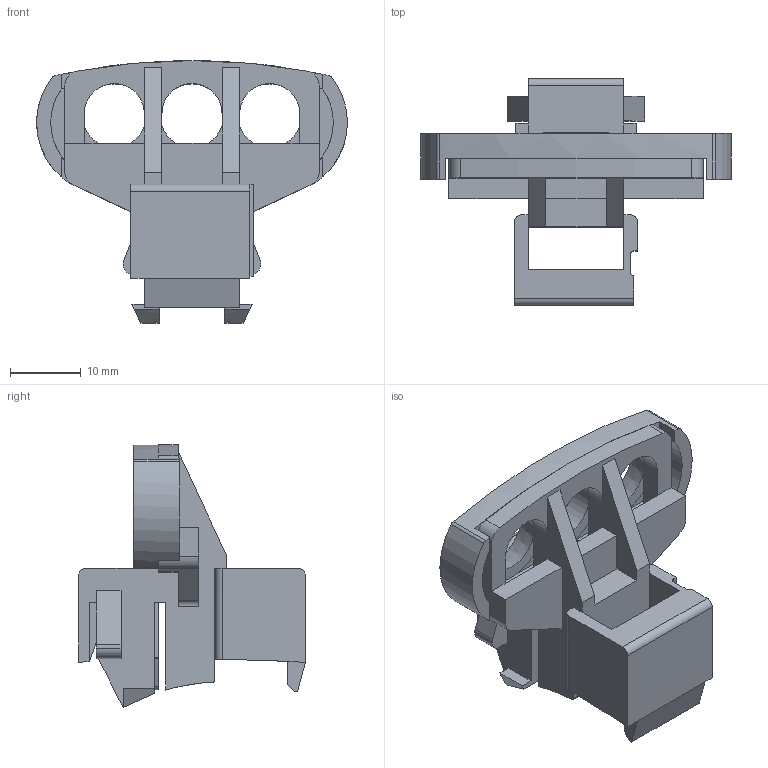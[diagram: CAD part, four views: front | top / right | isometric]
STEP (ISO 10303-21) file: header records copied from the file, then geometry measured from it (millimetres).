
FILE_DESCRIPTION (( 'STEP AP214' ), '1' );
FILE_NAME ('OptiMat E100 óñòðîéñòâî áëîêèðîâêè ïîëîæåíèÿ (îòêëþ÷åíî).STEP', '2023-11-13T10:45:50', ( '' ), ( '' ), 'SwSTEP 2.0', 'SolidWorks 2018', '' );
FILE_SCHEMA (( 'AUTOMOTIVE_DESIGN' ));
Length unit declared in the file: millimetre
Products named in the file (4): Ðó÷êà ÃÆÈÊ.753314.006_ƒ†ˆŠ.753314.006; OptiMat E100 óñòðîéñòâî áëîêèðîâêè ïîëîæåíèÿ (îòêëþ÷åíî); Óñòðîéñòâî äëÿ áëîêèðîâêè ÃÆÈÊ.301261.033_ƒ†ˆŠ.301261.033; Êðåïëåíèå ÃÆÈÊ.735384.099_ƒ†ˆŠ.735384.099
Assembly tree (3 placements, depth 3):
  OptiMat E100 óñòðîéñòâî áëîêèðîâêè ïîëîæåíèÿ (îòêëþ÷åíî)
    Óñòðîéñòâî äëÿ áëîêèðîâêè ÃÆÈÊ.301261.033_ƒ†ˆŠ.301261.033
      Êðåïëåíèå ÃÆÈÊ.735384.099_ƒ†ˆŠ.735384.099
      Ðó÷êà ÃÆÈÊ.753314.006_ƒ†ˆŠ.753314.006
Bounding box: 44.01 x 32.1 x 37.2 mm (x, y, z)
Volume: 7806.9 mm3; surface area: 8158 mm2
Topology: 2 solids, 2 shells, 194 faces, 576 edges, 380 vertices
Faces by surface type: plane 119, cylinder 71, cone 4
Entity records: 6700 total; most frequent: CARTESIAN_POINT 1213, ORIENTED_EDGE 1152, DIRECTION 1124, EDGE_CURVE 576, LINE 406, VECTOR 406, VERTEX_POINT 380, AXIS2_PLACEMENT_3D 359
